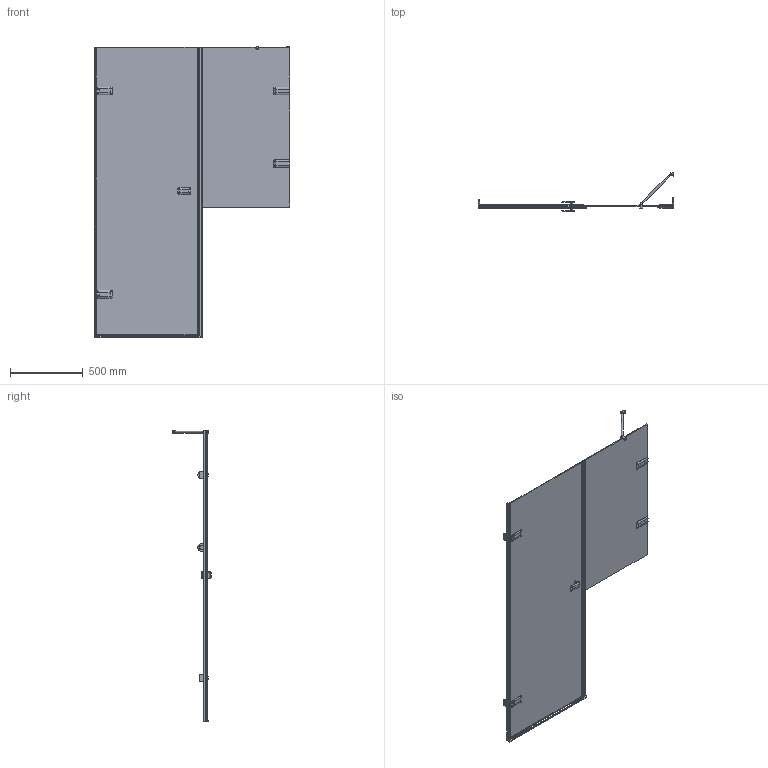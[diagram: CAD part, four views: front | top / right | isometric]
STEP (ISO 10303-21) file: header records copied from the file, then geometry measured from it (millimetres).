
FILE_DESCRIPTION(/* description */ (''),/* implementation_level */ '2;1');
FILE_NAME(/* name */ 'E:\Работа\Сергей\Душевые кабинки\! Работа\! 1\TREND DOOR GK-862BLTWO\TREND DOOR GK-862BLTWO левая модель\TREND DOOR GK-862BLTWO ЛЕВАЯ-3D.stp',/* time_stamp */ '2017-08-23T21:07:06+03:00',/* author */ ('PC'),/* organization */ (''),/* preprocessor_version */ 'ST-DEVELOPER v15.2',/* originating_system */ 'Autodesk Inventor 2014',/* authorisation */ '');
FILE_SCHEMA (('AUTOMOTIVE_DESIGN { 1 0 10303 214 3 1 1 }'));
Length unit declared in the file: millimetre
Products named in the file (1): TREND DOOR GK-862BLTWO ЛЕВАЯ-3D
Bounding box: 1350 x 268.74 x 2009.49 mm (x, y, z)
Volume: 15221993.9 mm3; surface area: 4766014.7 mm2
Topology: 4 solids, 12 shells, 954 faces, 2600 edges, 1718 vertices
Faces by surface type: plane 581, cylinder 253, bspline 64, torus 36, sphere 10, cone 10
Full cylindrical faces by diameter (mm): 4.5 x3, 4.917 x4, 5 x2, 12 x2, 15 x1, 20 x2, 26 x1, 28 x2, 28.5 x2, 40 x2
Entity records: 32937 total; most frequent: CARTESIAN_POINT 8443, DIRECTION 4830, ORIENTED_EDGE 4822, EDGE_CURVE 2410, LINE 1726, VECTOR 1726, AXIS2_PLACEMENT_3D 1552, VERTEX_POINT 1511
